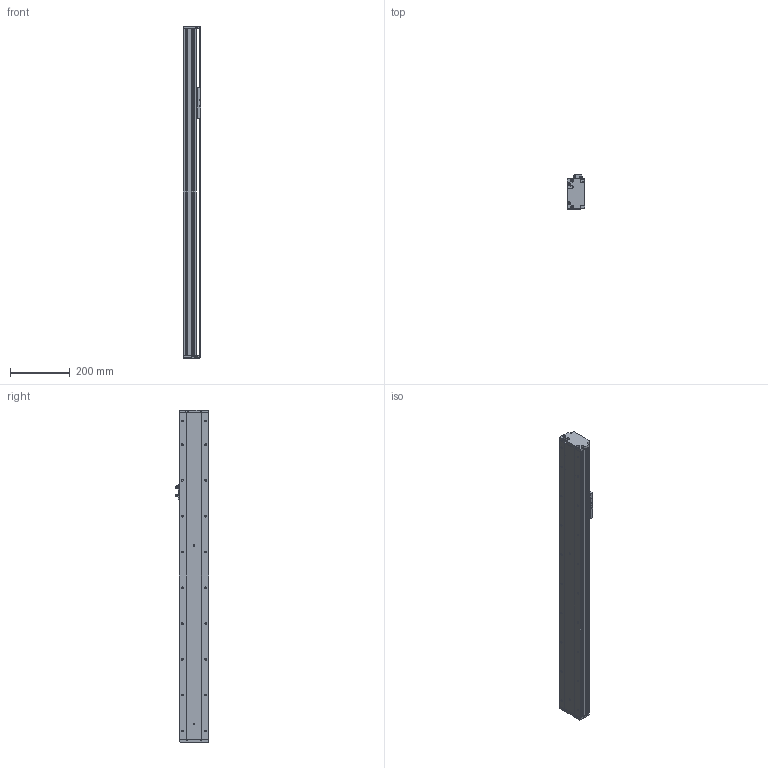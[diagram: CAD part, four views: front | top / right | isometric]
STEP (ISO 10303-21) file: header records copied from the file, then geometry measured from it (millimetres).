
FILE_DESCRIPTION (( 'STEP AP214' ), '1' );
FILE_NAME ('KSD100S-S750-M-CM.STEP', '2019-08-29T09:59:57', ( '微软用户' ), ( '微软中国' ), 'SwSTEP 2.0', 'SolidWorks 2014', '' );
FILE_SCHEMA (( 'AUTOMOTIVE_DESIGN' ));
Length unit declared in the file: millimetre
Products named in the file (8): 覜茼え100遵圉猾敕; U倰嫖萇EEㄜSX672; 100宽防尘板丝杆750行程电机内装; 100宽马达安装板-电机内装; 100宽滚珠螺姆安装板半封闭; 100遵傷啣; 100宽底板半封闭丝杆750行程电机内装; KSD100S-S750-M-CM
Assembly tree (8 placements, depth 2):
  KSD100S-S750-M-CM
    100宽底板半封闭丝杆750行程电机内装
    100遵傷啣
    100宽滚珠螺姆安装板半封闭
    100宽马达安装板-电机内装
    100宽防尘板丝杆750行程电机内装
    U倰嫖萇EEㄜSX672  x2
    覜茼え100遵圉猾敕
Bounding box: 60 x 113.7 x 1113 mm (x, y, z)
Volume: 2125937.1 mm3; surface area: 771059.5 mm2
Topology: 8 solids, 8 shells, 1015 faces, 2904 edges, 1815 vertices
Faces by surface type: cylinder 500, plane 382, cone 133
Entity records: 39284 total; most frequent: CARTESIAN_POINT 8347, DIRECTION 5081, ORIENTED_EDGE 5008, EDGE_CURVE 2504, AXIS2_PLACEMENT_3D 1829, VERTEX_POINT 1627, VECTOR 1423, LINE 1423
